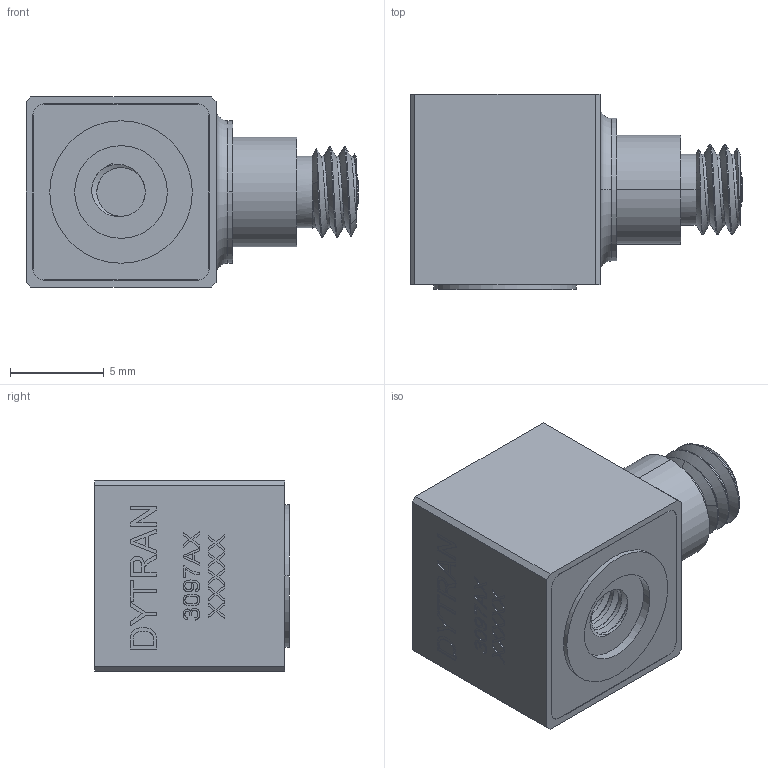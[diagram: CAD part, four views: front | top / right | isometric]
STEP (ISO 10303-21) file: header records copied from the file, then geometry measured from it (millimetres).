
FILE_DESCRIPTION (( 'STEP AP214' ), '1' );
FILE_NAME ('3097AX.STEP', '2018-02-02T16:24:17', ( 'Dytran' ), ( '' ), 'SwSTEP 2.0', 'SolidWorks 2016', '' );
FILE_SCHEMA (( 'AUTOMOTIVE_DESIGN' ));
Length unit declared in the file: inch
Products named in the file (1): 3097AX
Bounding box: 17.75 x 10.41 x 10.16 mm (x, y, z)
Volume: 1201.1 mm3; surface area: 1062.3 mm2
Topology: 3 solids, 3 shells, 420 faces, 1095 edges, 720 vertices
Faces by surface type: plane 238, bspline 92, cylinder 62, cone 26, torus 2
Entity records: 23126 total; most frequent: CARTESIAN_POINT 7952, ORIENTED_EDGE 2190, DIRECTION 1653, EDGE_CURVE 1095, VERTEX_POINT 720, LINE 691, VECTOR 691, AXIS2_PLACEMENT_3D 481
